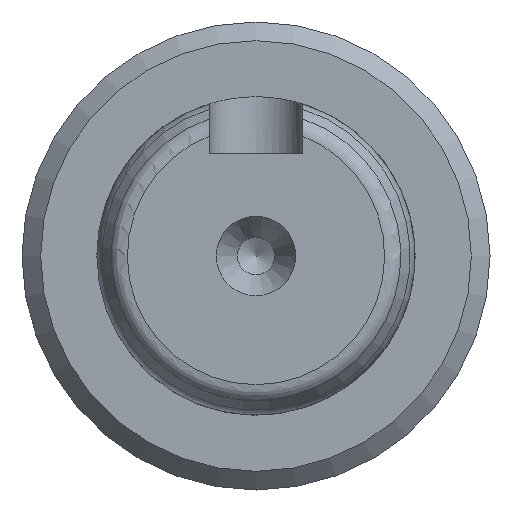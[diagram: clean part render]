
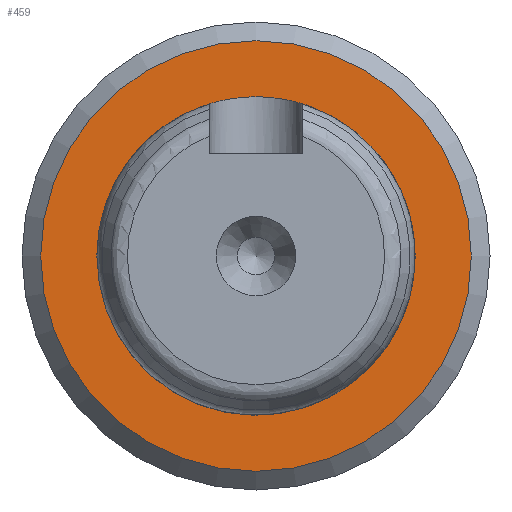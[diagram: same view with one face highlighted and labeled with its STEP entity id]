
A CAD part, left-side view. The second image highlights one B-rep face of the part: STEP entity #459.
In plain terms, the highlighted planar face has unit normal (-1, 0, 0).
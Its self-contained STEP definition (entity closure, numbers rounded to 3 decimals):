
#26=FACE_BOUND('',#105,.T.);
#35=CIRCLE('',#514,11.5);
#40=CIRCLE('',#521,8.5);
#75=FACE_OUTER_BOUND('',#104,.T.);
#104=EDGE_LOOP('',(#366));
#105=EDGE_LOOP('',(#367));
#220=VERTEX_POINT('',#842);
#225=VERTEX_POINT('',#856);
#273=EDGE_CURVE('',#220,#220,#35,.T.);
#280=EDGE_CURVE('',#225,#225,#40,.T.);
#366=ORIENTED_EDGE('',*,*,#273,.F.);
#367=ORIENTED_EDGE('',*,*,#280,.F.);
#444=PLANE('',#520);
#459=ADVANCED_FACE('',(#75,#26),#444,.T.);
#514=AXIS2_PLACEMENT_3D('',#843,#602,#603);
#520=AXIS2_PLACEMENT_3D('',#855,#616,#617);
#521=AXIS2_PLACEMENT_3D('',#857,#618,#619);
#602=DIRECTION('center_axis',(1.,0.,0.));
#603=DIRECTION('ref_axis',(0.,1.,0.));
#616=DIRECTION('center_axis',(-1.,0.,0.));
#617=DIRECTION('ref_axis',(0.,0.,1.));
#618=DIRECTION('center_axis',(-1.,0.,0.));
#619=DIRECTION('ref_axis',(0.,-1.,0.));
#842=CARTESIAN_POINT('',(-53.5,-11.5,0.));
#843=CARTESIAN_POINT('Origin',(-53.5,0.,0.));
#855=CARTESIAN_POINT('Origin',(-53.5,-10.5,0.));
#856=CARTESIAN_POINT('',(-53.5,8.5,0.));
#857=CARTESIAN_POINT('Origin',(-53.5,0.,0.));
